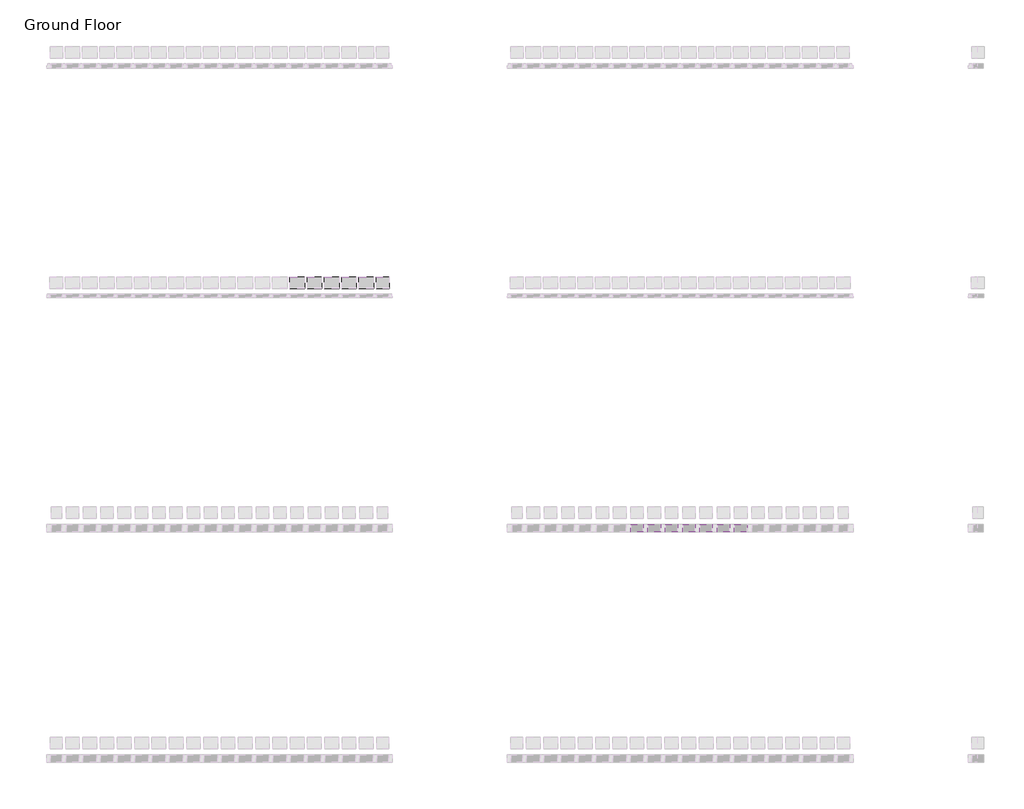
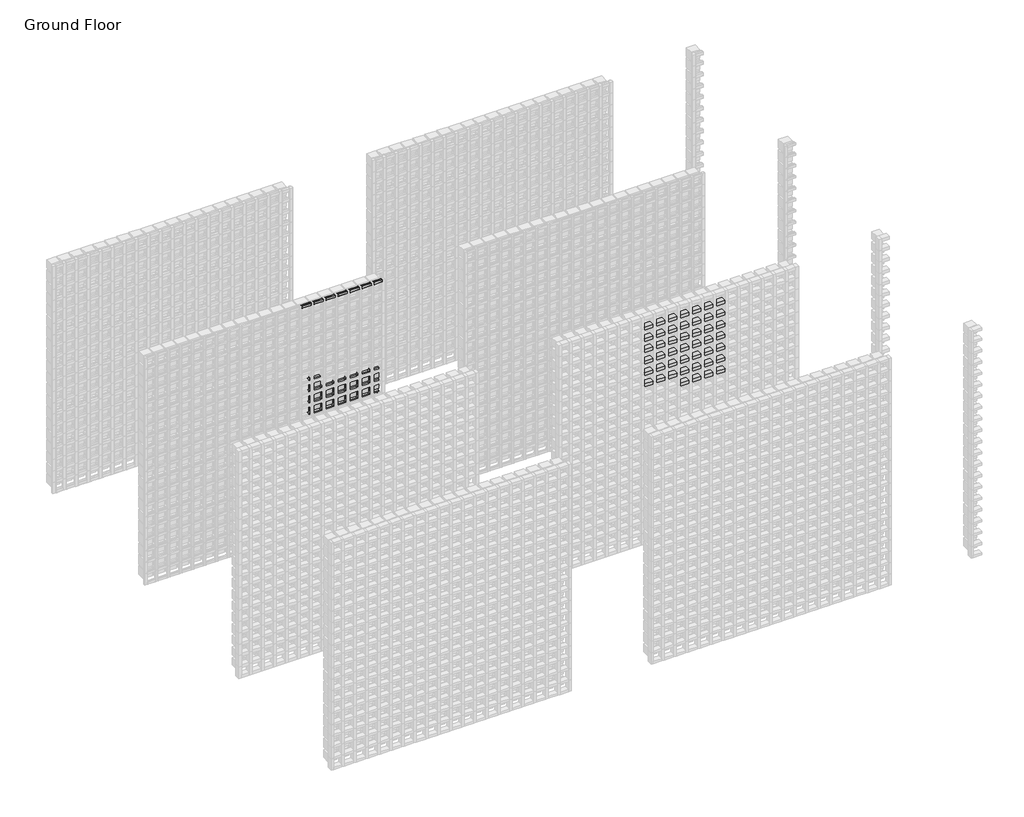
# One storey, part 132 of 350: 73 plates, 66 members.
"""IFC4 building model written with IfcOpenShell, lengths in millimetres."""

from ifc_helpers import new_model, si_unit, origin, place, context, project, spatial, transform, mapped, element, save
from components import rectangular_mullion_97e353d0, rectangular_mullion_f1976eb1, rectangular_mullion_66d447bf, rectangular_mullion_02594090, rectangular_mullion_7f8dba3f, rectangular_mullion_790ae51e, rectangular_mullion_a370a012, empty_system_panel_empty_5a3607ba, empty_system_panel_empty_babc703c, empty_system_panel_empty_56815599, empty_system_panel_empty_50ac6329

model = new_model("IFC4")

# Units and contexts
model_context = context("Model", 3, world=origin())
ifc_project = project(units=[si_unit("LENGTHUNIT", "METRE", prefix="MILLI")], contexts=[model_context])

# Site, building, storey
site = spatial("IfcSite", under=ifc_project)
building = spatial("IfcBuilding", under=site)
storey = spatial("IfcBuildingStorey", under=building, Name="Ground Floor", Elevation=0.0)

# Members
placement = place(None, origin())
rectangular_mullion_shape = rectangular_mullion_97e353d0(model_context)
element("IfcMember", 1, ObjectType="Rectangular Mullion : Batten_Timber_Modinex_Austratus_Grid_Fascia_40x65_Hemlock", at=placement, inside=storey, context=model_context, shape_type="MappedRepresentation", body=[
    mapped(rectangular_mullion_shape, transform((11546.4361642, 40968.2978302, 1950.0), x_axis=(0.0, 0.0, 1.0), y_axis=(0.0, -1.0, 0.0), z_axis=(1.0, 0.0, 0.0))),
])
element("IfcMember", 2, ObjectType="Rectangular Mullion : Batten_Timber_Modinex_Austratus_Grid_Fascia_40x65_Hemlock", at=placement, inside=storey, context=model_context, shape_type="MappedRepresentation", body=[
    mapped(rectangular_mullion_shape, transform((11696.4361642, 40968.2978302, 1950.0), x_axis=(0.0, 0.0, 1.0), y_axis=(0.0, -1.0, 0.0), z_axis=(1.0, 0.0, 0.0))),
])
element("IfcMember", 3, ObjectType="Rectangular Mullion : Batten_Timber_Modinex_Austratus_Grid_Fascia_40x65_Hemlock", at=placement, inside=storey, context=model_context, shape_type="MappedRepresentation", body=[
    mapped(rectangular_mullion_shape, transform((11846.4361642, 40968.2978302, 1950.0), x_axis=(0.0, 0.0, 1.0), y_axis=(0.0, -1.0, 0.0), z_axis=(1.0, 0.0, 0.0))),
])
element("IfcMember", 4, ObjectType="Rectangular Mullion : Batten_Timber_Modinex_Austratus_Grid_Fascia_40x65_Hemlock", at=placement, inside=storey, context=model_context, shape_type="MappedRepresentation", body=[
    mapped(rectangular_mullion_shape, transform((11996.4361642, 40968.2978302, 1950.0), x_axis=(0.0, 0.0, 1.0), y_axis=(0.0, -1.0, 0.0), z_axis=(1.0, 0.0, 0.0))),
])
element("IfcMember", 5, ObjectType="Rectangular Mullion : Batten_Timber_Modinex_Austratus_Grid_Fascia_40x65_Hemlock", at=placement, inside=storey, context=model_context, shape_type="MappedRepresentation", body=[
    mapped(rectangular_mullion_shape, transform((11096.4361642, 40968.2978302, 2100.0), x_axis=(0.0, 0.0, 1.0), y_axis=(0.0, -1.0, 0.0), z_axis=(1.0, 0.0, 0.0))),
])
element("IfcMember", 6, ObjectType="Rectangular Mullion : Batten_Timber_Modinex_Austratus_Grid_Fascia_40x65_Hemlock", at=placement, inside=storey, context=model_context, shape_type="MappedRepresentation", body=[
    mapped(rectangular_mullion_shape, transform((11246.4361642, 40968.2978302, 2100.0), x_axis=(0.0, 0.0, 1.0), y_axis=(0.0, -1.0, 0.0), z_axis=(1.0, 0.0, 0.0))),
])
element("IfcMember", 7, ObjectType="Rectangular Mullion : Batten_Timber_Modinex_Austratus_Grid_Fascia_40x65_Hemlock", at=placement, inside=storey, context=model_context, shape_type="MappedRepresentation", body=[
    mapped(rectangular_mullion_shape, transform((11396.4361642, 40968.2978302, 2100.0), x_axis=(0.0, 0.0, 1.0), y_axis=(0.0, -1.0, 0.0), z_axis=(1.0, 0.0, 0.0))),
])
element("IfcMember", 8, ObjectType="Rectangular Mullion : Batten_Timber_Modinex_Austratus_Grid_Fascia_40x65_Hemlock", at=placement, inside=storey, context=model_context, shape_type="MappedRepresentation", body=[
    mapped(rectangular_mullion_shape, transform((11546.4361642, 40968.2978302, 2100.0), x_axis=(0.0, 0.0, 1.0), y_axis=(0.0, -1.0, 0.0), z_axis=(1.0, 0.0, 0.0))),
])
element("IfcMember", 9, ObjectType="Rectangular Mullion : Batten_Timber_Modinex_Austratus_Grid_Fascia_40x65_Hemlock", at=placement, inside=storey, context=model_context, shape_type="MappedRepresentation", body=[
    mapped(rectangular_mullion_shape, transform((11696.4361642, 40968.2978302, 2100.0), x_axis=(0.0, 0.0, 1.0), y_axis=(0.0, -1.0, 0.0), z_axis=(1.0, 0.0, 0.0))),
])
element("IfcMember", 10, ObjectType="Rectangular Mullion : Batten_Timber_Modinex_Austratus_Grid_Fascia_40x65_Hemlock", at=placement, inside=storey, context=model_context, shape_type="MappedRepresentation", body=[
    mapped(rectangular_mullion_shape, transform((11846.4361642, 40968.2978302, 2100.0), x_axis=(0.0, 0.0, 1.0), y_axis=(0.0, -1.0, 0.0), z_axis=(1.0, 0.0, 0.0))),
])
element("IfcMember", 11, ObjectType="Rectangular Mullion : Batten_Timber_Modinex_Austratus_Grid_Fascia_40x65_Hemlock", at=placement, inside=storey, context=model_context, shape_type="MappedRepresentation", body=[
    mapped(rectangular_mullion_shape, transform((11996.4361642, 40968.2978302, 2100.0), x_axis=(0.0, 0.0, 1.0), y_axis=(0.0, -1.0, 0.0), z_axis=(1.0, 0.0, 0.0))),
])
element("IfcMember", 12, ObjectType="Rectangular Mullion : Batten_Timber_Modinex_Austratus_Grid_Fascia_40x65_Hemlock", at=placement, inside=storey, context=model_context, shape_type="MappedRepresentation", body=[
    mapped(rectangular_mullion_shape, transform((11096.4361642, 40968.2978302, 2250.0), x_axis=(0.0, 0.0, 1.0), y_axis=(0.0, -1.0, 0.0), z_axis=(1.0, 0.0, 0.0))),
])
element("IfcMember", 13, ObjectType="Rectangular Mullion : Batten_Timber_Modinex_Austratus_Grid_Fascia_40x65_Hemlock", at=placement, inside=storey, context=model_context, shape_type="MappedRepresentation", body=[
    mapped(rectangular_mullion_shape, transform((11246.4361642, 40968.2978302, 2250.0), x_axis=(0.0, 0.0, 1.0), y_axis=(0.0, -1.0, 0.0), z_axis=(1.0, 0.0, 0.0))),
])
element("IfcMember", 14, ObjectType="Rectangular Mullion : Batten_Timber_Modinex_Austratus_Grid_Fascia_40x65_Hemlock", at=placement, inside=storey, context=model_context, shape_type="MappedRepresentation", body=[
    mapped(rectangular_mullion_shape, transform((11396.4361642, 40968.2978302, 2250.0), x_axis=(0.0, 0.0, 1.0), y_axis=(0.0, -1.0, 0.0), z_axis=(1.0, 0.0, 0.0))),
])
element("IfcMember", 15, ObjectType="Rectangular Mullion : Batten_Timber_Modinex_Austratus_Grid_Fascia_40x65_Hemlock", at=placement, inside=storey, context=model_context, shape_type="MappedRepresentation", body=[
    mapped(rectangular_mullion_shape, transform((11546.4361642, 40968.2978302, 2250.0), x_axis=(0.0, 0.0, 1.0), y_axis=(0.0, -1.0, 0.0), z_axis=(1.0, 0.0, 0.0))),
])
element("IfcMember", 16, ObjectType="Rectangular Mullion : Batten_Timber_Modinex_Austratus_Grid_Fascia_40x65_Hemlock", at=placement, inside=storey, context=model_context, shape_type="MappedRepresentation", body=[
    mapped(rectangular_mullion_shape, transform((11696.4361642, 40968.2978302, 2250.0), x_axis=(0.0, 0.0, 1.0), y_axis=(0.0, -1.0, 0.0), z_axis=(1.0, 0.0, 0.0))),
])
element("IfcMember", 17, ObjectType="Rectangular Mullion : Batten_Timber_Modinex_Austratus_Grid_Fascia_40x65_Hemlock", at=placement, inside=storey, context=model_context, shape_type="MappedRepresentation", body=[
    mapped(rectangular_mullion_shape, transform((11846.4361642, 40968.2978302, 2250.0), x_axis=(0.0, 0.0, 1.0), y_axis=(0.0, -1.0, 0.0), z_axis=(1.0, 0.0, 0.0))),
])
element("IfcMember", 18, ObjectType="Rectangular Mullion : Batten_Timber_Modinex_Austratus_Grid_Fascia_40x65_Hemlock", at=placement, inside=storey, context=model_context, shape_type="MappedRepresentation", body=[
    mapped(rectangular_mullion_shape, transform((11996.4361642, 40968.2978302, 2250.0), x_axis=(0.0, 0.0, 1.0), y_axis=(0.0, -1.0, 0.0), z_axis=(1.0, 0.0, 0.0))),
])
element("IfcMember", 19, ObjectType="Rectangular Mullion : Batten_Timber_Modinex_Austratus_Grid_Fascia_40x65_Hemlock", at=placement, inside=storey, context=model_context, shape_type="MappedRepresentation", body=[
    mapped(rectangular_mullion_shape, transform((11096.4361642, 40968.2978302, 2400.0), x_axis=(0.0, 0.0, 1.0), y_axis=(0.0, -1.0, 0.0), z_axis=(1.0, 0.0, 0.0))),
])
element("IfcMember", 20, ObjectType="Rectangular Mullion : Batten_Timber_Modinex_Austratus_Grid_Fascia_40x65_Hemlock", at=placement, inside=storey, context=model_context, shape_type="MappedRepresentation", body=[
    mapped(rectangular_mullion_shape, transform((11246.4361642, 40968.2978302, 2400.0), x_axis=(0.0, 0.0, 1.0), y_axis=(0.0, -1.0, 0.0), z_axis=(1.0, 0.0, 0.0))),
])
element("IfcMember", 21, ObjectType="Rectangular Mullion : Batten_Timber_Modinex_Austratus_Grid_Fascia_40x65_Hemlock", at=placement, inside=storey, context=model_context, shape_type="MappedRepresentation", body=[
    mapped(rectangular_mullion_shape, transform((11396.4361642, 40968.2978302, 2400.0), x_axis=(0.0, 0.0, 1.0), y_axis=(0.0, -1.0, 0.0), z_axis=(1.0, 0.0, 0.0))),
])
element("IfcMember", 22, ObjectType="Rectangular Mullion : Batten_Timber_Modinex_Austratus_Grid_Fascia_40x65_Hemlock", at=placement, inside=storey, context=model_context, shape_type="MappedRepresentation", body=[
    mapped(rectangular_mullion_shape, transform((11546.4361642, 40968.2978302, 2400.0), x_axis=(0.0, 0.0, 1.0), y_axis=(0.0, -1.0, 0.0), z_axis=(1.0, 0.0, 0.0))),
])
element("IfcMember", 23, ObjectType="Rectangular Mullion : Batten_Timber_Modinex_Austratus_Grid_Fascia_40x65_Hemlock", at=placement, inside=storey, context=model_context, shape_type="MappedRepresentation", body=[
    mapped(rectangular_mullion_shape, transform((11696.4361642, 40968.2978302, 2400.0), x_axis=(0.0, 0.0, 1.0), y_axis=(0.0, -1.0, 0.0), z_axis=(1.0, 0.0, 0.0))),
])
element("IfcMember", 24, ObjectType="Rectangular Mullion : Batten_Timber_Modinex_Austratus_Grid_Fascia_40x65_Hemlock", at=placement, inside=storey, context=model_context, shape_type="MappedRepresentation", body=[
    mapped(rectangular_mullion_shape, transform((11846.4361642, 40968.2978302, 2400.0), x_axis=(0.0, 0.0, 1.0), y_axis=(0.0, -1.0, 0.0), z_axis=(1.0, 0.0, 0.0))),
])
element("IfcMember", 25, ObjectType="Rectangular Mullion : Batten_Timber_Modinex_Austratus_Grid_Fascia_40x65_Hemlock", at=placement, inside=storey, context=model_context, shape_type="MappedRepresentation", body=[
    mapped(rectangular_mullion_shape, transform((11996.4361642, 40968.2978302, 2400.0), x_axis=(0.0, 0.0, 1.0), y_axis=(0.0, -1.0, 0.0), z_axis=(1.0, 0.0, 0.0))),
])
element("IfcMember", 26, ObjectType="Rectangular Mullion : Batten_Timber_Modinex_Austratus_Grid_Fascia_40x65_Hemlock", at=placement, inside=storey, context=model_context, shape_type="MappedRepresentation", body=[
    mapped(rectangular_mullion_shape, transform((11096.4361642, 40968.2978302, 2550.0), x_axis=(0.0, 0.0, 1.0), y_axis=(0.0, -1.0, 0.0), z_axis=(1.0, 0.0, 0.0))),
])
element("IfcMember", 27, ObjectType="Rectangular Mullion : Batten_Timber_Modinex_Austratus_Grid_Fascia_40x65_Hemlock", at=placement, inside=storey, context=model_context, shape_type="MappedRepresentation", body=[
    mapped(rectangular_mullion_shape, transform((11246.4361642, 40968.2978302, 2550.0), x_axis=(0.0, 0.0, 1.0), y_axis=(0.0, -1.0, 0.0), z_axis=(1.0, 0.0, 0.0))),
])
element("IfcMember", 28, ObjectType="Rectangular Mullion : Batten_Timber_Modinex_Austratus_Grid_Fascia_40x65_Hemlock", at=placement, inside=storey, context=model_context, shape_type="MappedRepresentation", body=[
    mapped(rectangular_mullion_shape, transform((11396.4361642, 40968.2978302, 2550.0), x_axis=(0.0, 0.0, 1.0), y_axis=(0.0, -1.0, 0.0), z_axis=(1.0, 0.0, 0.0))),
])
element("IfcMember", 29, ObjectType="Rectangular Mullion : Batten_Timber_Modinex_Austratus_Grid_Fascia_40x65_Hemlock", at=placement, inside=storey, context=model_context, shape_type="MappedRepresentation", body=[
    mapped(rectangular_mullion_shape, transform((11546.4361642, 40968.2978302, 2550.0), x_axis=(0.0, 0.0, 1.0), y_axis=(0.0, -1.0, 0.0), z_axis=(1.0, 0.0, 0.0))),
])
element("IfcMember", 30, ObjectType="Rectangular Mullion : Batten_Timber_Modinex_Austratus_Grid_Fascia_40x65_Hemlock", at=placement, inside=storey, context=model_context, shape_type="MappedRepresentation", body=[
    mapped(rectangular_mullion_shape, transform((11696.4361642, 40968.2978302, 2550.0), x_axis=(0.0, 0.0, 1.0), y_axis=(0.0, -1.0, 0.0), z_axis=(1.0, 0.0, 0.0))),
])
element("IfcMember", 31, ObjectType="Rectangular Mullion : Batten_Timber_Modinex_Austratus_Grid_Fascia_40x65_Hemlock", at=placement, inside=storey, context=model_context, shape_type="MappedRepresentation", body=[
    mapped(rectangular_mullion_shape, transform((11846.4361642, 40968.2978302, 2550.0), x_axis=(0.0, 0.0, 1.0), y_axis=(0.0, -1.0, 0.0), z_axis=(1.0, 0.0, 0.0))),
])
element("IfcMember", 32, ObjectType="Rectangular Mullion : Batten_Timber_Modinex_Austratus_Grid_Fascia_40x65_Hemlock", at=placement, inside=storey, context=model_context, shape_type="MappedRepresentation", body=[
    mapped(rectangular_mullion_shape, transform((11996.4361642, 40968.2978302, 2550.0), x_axis=(0.0, 0.0, 1.0), y_axis=(0.0, -1.0, 0.0), z_axis=(1.0, 0.0, 0.0))),
])
element("IfcMember", 33, ObjectType="Rectangular Mullion : Batten_Timber_Modinex_Austratus_Grid_Fascia_40x65_Hemlock", at=placement, inside=storey, context=model_context, shape_type="MappedRepresentation", body=[
    mapped(rectangular_mullion_shape, transform((11096.4361642, 40968.2978302, 2700.0), x_axis=(0.0, 0.0, 1.0), y_axis=(0.0, -1.0, 0.0), z_axis=(1.0, 0.0, 0.0))),
])
element("IfcMember", 34, ObjectType="Rectangular Mullion : Batten_Timber_Modinex_Austratus_Grid_Fascia_40x65_Hemlock", at=placement, inside=storey, context=model_context, shape_type="MappedRepresentation", body=[
    mapped(rectangular_mullion_shape, transform((11246.4361642, 40968.2978302, 2700.0), x_axis=(0.0, 0.0, 1.0), y_axis=(0.0, -1.0, 0.0), z_axis=(1.0, 0.0, 0.0))),
])
element("IfcMember", 35, ObjectType="Rectangular Mullion : Batten_Timber_Modinex_Austratus_Grid_Fascia_40x65_Hemlock", at=placement, inside=storey, context=model_context, shape_type="MappedRepresentation", body=[
    mapped(rectangular_mullion_shape, transform((11396.4361642, 40968.2978302, 2700.0), x_axis=(0.0, 0.0, 1.0), y_axis=(0.0, -1.0, 0.0), z_axis=(1.0, 0.0, 0.0))),
])
element("IfcMember", 36, ObjectType="Rectangular Mullion : Batten_Timber_Modinex_Austratus_Grid_Fascia_40x65_Hemlock", at=placement, inside=storey, context=model_context, shape_type="MappedRepresentation", body=[
    mapped(rectangular_mullion_shape, transform((11546.4361642, 40968.2978302, 2700.0), x_axis=(0.0, 0.0, 1.0), y_axis=(0.0, -1.0, 0.0), z_axis=(1.0, 0.0, 0.0))),
])
element("IfcMember", 37, ObjectType="Rectangular Mullion : Batten_Timber_Modinex_Austratus_Grid_Fascia_40x65_Hemlock", at=placement, inside=storey, context=model_context, shape_type="MappedRepresentation", body=[
    mapped(rectangular_mullion_shape, transform((11696.4361642, 40968.2978302, 2700.0), x_axis=(0.0, 0.0, 1.0), y_axis=(0.0, -1.0, 0.0), z_axis=(1.0, 0.0, 0.0))),
])
element("IfcMember", 38, ObjectType="Rectangular Mullion : Batten_Timber_Modinex_Austratus_Grid_Fascia_40x65_Hemlock", at=placement, inside=storey, context=model_context, shape_type="MappedRepresentation", body=[
    mapped(rectangular_mullion_shape, transform((11846.4361642, 40968.2978302, 2700.0), x_axis=(0.0, 0.0, 1.0), y_axis=(0.0, -1.0, 0.0), z_axis=(1.0, 0.0, 0.0))),
])
element("IfcMember", 39, ObjectType="Rectangular Mullion : Batten_Timber_Modinex_Austratus_Grid_Fascia_40x65_Hemlock", at=placement, inside=storey, context=model_context, shape_type="MappedRepresentation", body=[
    mapped(rectangular_mullion_shape, transform((11996.4361642, 40968.2978302, 2700.0), x_axis=(0.0, 0.0, 1.0), y_axis=(0.0, -1.0, 0.0), z_axis=(1.0, 0.0, 0.0))),
])
element("IfcMember", 40, ObjectType="Rectangular Mullion : Batten_Timber_Modinex_Austratus_Grid_Fascia_40x65_Hemlock", at=placement, inside=storey, context=model_context, shape_type="MappedRepresentation", body=[
    mapped(rectangular_mullion_shape, transform((11096.4361642, 40968.2978302, 2850.0), x_axis=(0.0, 0.0, 1.0), y_axis=(0.0, -1.0, 0.0), z_axis=(1.0, 0.0, 0.0))),
])
element("IfcMember", 41, ObjectType="Rectangular Mullion : Batten_Timber_Modinex_Austratus_Grid_Fascia_40x65_Hemlock", at=placement, inside=storey, context=model_context, shape_type="MappedRepresentation", body=[
    mapped(rectangular_mullion_shape, transform((11246.4361642, 40968.2978302, 2850.0), x_axis=(0.0, 0.0, 1.0), y_axis=(0.0, -1.0, 0.0), z_axis=(1.0, 0.0, 0.0))),
])
element("IfcMember", 42, ObjectType="Rectangular Mullion : Batten_Timber_Modinex_Austratus_Grid_Fascia_40x65_Hemlock", at=placement, inside=storey, context=model_context, shape_type="MappedRepresentation", body=[
    mapped(rectangular_mullion_shape, transform((11396.4361642, 40968.2978302, 2850.0), x_axis=(0.0, 0.0, 1.0), y_axis=(0.0, -1.0, 0.0), z_axis=(1.0, 0.0, 0.0))),
])
element("IfcMember", 43, ObjectType="Rectangular Mullion : Batten_Timber_Modinex_Austratus_Grid_Fascia_40x65_Hemlock", at=placement, inside=storey, context=model_context, shape_type="MappedRepresentation", body=[
    mapped(rectangular_mullion_shape, transform((11546.4361642, 40968.2978302, 2850.0), x_axis=(0.0, 0.0, 1.0), y_axis=(0.0, -1.0, 0.0), z_axis=(1.0, 0.0, 0.0))),
])
element("IfcMember", 44, ObjectType="Rectangular Mullion : Batten_Timber_Modinex_Austratus_Grid_Fascia_40x65_Hemlock", at=placement, inside=storey, context=model_context, shape_type="MappedRepresentation", body=[
    mapped(rectangular_mullion_shape, transform((11696.4361642, 40968.2978302, 2850.0), x_axis=(0.0, 0.0, 1.0), y_axis=(0.0, -1.0, 0.0), z_axis=(1.0, 0.0, 0.0))),
])
element("IfcMember", 45, ObjectType="Rectangular Mullion : Batten_Timber_Modinex_Austratus_Grid_Fascia_40x65_Hemlock", at=placement, inside=storey, context=model_context, shape_type="MappedRepresentation", body=[
    mapped(rectangular_mullion_shape, transform((11846.4361642, 40968.2978302, 2850.0), x_axis=(0.0, 0.0, 1.0), y_axis=(0.0, -1.0, 0.0), z_axis=(1.0, 0.0, 0.0))),
])
element("IfcMember", 46, ObjectType="Rectangular Mullion : Batten_Timber_Modinex_Austratus_Grid_Fascia_40x65_Hemlock", at=placement, inside=storey, context=model_context, shape_type="MappedRepresentation", body=[
    mapped(rectangular_mullion_shape, transform((11996.4361642, 40968.2978302, 2850.0), x_axis=(0.0, 0.0, 1.0), y_axis=(0.0, -1.0, 0.0), z_axis=(1.0, 0.0, 0.0))),
])
rectangular_mullion_2_shape = rectangular_mullion_f1976eb1(model_context)
element("IfcMember", 47, ObjectType="Rectangular Mullion : Batten_Timber_Modinex_Austratus_Grid_Fin_30x30_Blackbutt", at=placement, inside=storey, context=model_context, shape_type="MappedRepresentation", body=[
    mapped(rectangular_mullion_2_shape, transform((8016.4361642, 42968.2978302, 0.0), x_axis=(1.0, 0.0, 0.0), y_axis=(0.0, -1.0, 0.0), z_axis=(0.0, 0.0, -1.0))),
])
element("IfcMember", 48, ObjectType="Rectangular Mullion : Batten_Timber_Modinex_Austratus_Grid_Fin_30x30_Blackbutt", at=placement, inside=storey, context=model_context, shape_type="MappedRepresentation", body=[
    mapped(rectangular_mullion_2_shape, transform((8166.4361642, 42968.2978302, 0.0), x_axis=(1.0, 0.0, 0.0), y_axis=(0.0, -1.0, 0.0), z_axis=(0.0, 0.0, -1.0))),
])
element("IfcMember", 49, ObjectType="Rectangular Mullion : Batten_Timber_Modinex_Austratus_Grid_Fin_30x30_Blackbutt", at=placement, inside=storey, context=model_context, shape_type="MappedRepresentation", body=[
    mapped(rectangular_mullion_2_shape, transform((8316.4361642, 42968.2978302, 0.0), x_axis=(1.0, 0.0, 0.0), y_axis=(0.0, -1.0, 0.0), z_axis=(0.0, 0.0, -1.0))),
])
element("IfcMember", 50, ObjectType="Rectangular Mullion : Batten_Timber_Modinex_Austratus_Grid_Fin_30x30_Blackbutt", at=placement, inside=storey, context=model_context, shape_type="MappedRepresentation", body=[
    mapped(rectangular_mullion_2_shape, transform((8466.4361642, 42968.2978302, 0.0), x_axis=(1.0, 0.0, 0.0), y_axis=(0.0, -1.0, 0.0), z_axis=(0.0, 0.0, -1.0))),
])
element("IfcMember", 51, ObjectType="Rectangular Mullion : Batten_Timber_Modinex_Austratus_Grid_Fin_30x30_Blackbutt", at=placement, inside=storey, context=model_context, shape_type="MappedRepresentation", body=[
    mapped(rectangular_mullion_2_shape, transform((8616.4361642, 42968.2978302, 0.0), x_axis=(1.0, 0.0, 0.0), y_axis=(0.0, -1.0, 0.0), z_axis=(0.0, 0.0, -1.0))),
])
element("IfcMember", 52, ObjectType="Rectangular Mullion : Batten_Timber_Modinex_Austratus_Grid_Fin_30x30_Blackbutt", at=placement, inside=storey, context=model_context, shape_type="MappedRepresentation", body=[
    mapped(rectangular_mullion_2_shape, transform((8766.4361642, 42968.2978302, 0.0), x_axis=(1.0, 0.0, 0.0), y_axis=(0.0, -1.0, 0.0), z_axis=(0.0, 0.0, -1.0))),
])
rectangular_mullion_3_shape = rectangular_mullion_66d447bf(model_context)
element("IfcMember", 53, ObjectType="Rectangular Mullion : Batten_Timber_Modinex_Austratus_Grid_Fin_30x30_Blackbutt", at=placement, inside=storey, context=model_context, shape_type="MappedRepresentation", body=[
    mapped(rectangular_mullion_3_shape, transform((8886.4361639, 42968.2978302, 3000.0), x_axis=(0.0, 0.0, 1.0), y_axis=(0.0, -1.0, 0.0), z_axis=(1.0, 0.0, 0.0))),
])
rectangular_mullion_4_shape = rectangular_mullion_02594090(model_context)
element("IfcMember", 54, ObjectType="Rectangular Mullion : Batten_Timber_Modinex_Austratus_Grid_Fin_30x30_Blackbutt", at=placement, inside=storey, context=model_context, shape_type="MappedRepresentation", body=[
    mapped(rectangular_mullion_4_shape, transform((8001.4361642, 42968.2978302, 3000.0), x_axis=(0.0, 0.0, 1.0), y_axis=(0.0, -1.0, 0.0), z_axis=(1.0, 0.0, 0.0))),
])
element("IfcMember", 55, ObjectType="Rectangular Mullion : Batten_Timber_Modinex_Austratus_Grid_Fin_30x30_Blackbutt", at=placement, inside=storey, context=model_context, shape_type="MappedRepresentation", body=[
    mapped(rectangular_mullion_4_shape, transform((8151.4361642, 42968.2978302, 3000.0), x_axis=(0.0, 0.0, 1.0), y_axis=(0.0, -1.0, 0.0), z_axis=(1.0, 0.0, 0.0))),
])
element("IfcMember", 56, ObjectType="Rectangular Mullion : Batten_Timber_Modinex_Austratus_Grid_Fin_30x30_Blackbutt", at=placement, inside=storey, context=model_context, shape_type="MappedRepresentation", body=[
    mapped(rectangular_mullion_4_shape, transform((8301.4361642, 42968.2978302, 3000.0), x_axis=(0.0, 0.0, 1.0), y_axis=(0.0, -1.0, 0.0), z_axis=(1.0, 0.0, 0.0))),
])
element("IfcMember", 57, ObjectType="Rectangular Mullion : Batten_Timber_Modinex_Austratus_Grid_Fin_30x30_Blackbutt", at=placement, inside=storey, context=model_context, shape_type="MappedRepresentation", body=[
    mapped(rectangular_mullion_4_shape, transform((8451.4361642, 42968.2978302, 3000.0), x_axis=(0.0, 0.0, 1.0), y_axis=(0.0, -1.0, 0.0), z_axis=(1.0, 0.0, 0.0))),
])
element("IfcMember", 58, ObjectType="Rectangular Mullion : Batten_Timber_Modinex_Austratus_Grid_Fin_30x30_Blackbutt", at=placement, inside=storey, context=model_context, shape_type="MappedRepresentation", body=[
    mapped(rectangular_mullion_4_shape, transform((8601.4361642, 42968.2978302, 3000.0), x_axis=(0.0, 0.0, 1.0), y_axis=(0.0, -1.0, 0.0), z_axis=(1.0, 0.0, 0.0))),
])
element("IfcMember", 59, ObjectType="Rectangular Mullion : Batten_Timber_Modinex_Austratus_Grid_Fin_30x30_Blackbutt", at=placement, inside=storey, context=model_context, shape_type="MappedRepresentation", body=[
    mapped(rectangular_mullion_4_shape, transform((8751.4361642, 42968.2978302, 3000.0), x_axis=(0.0, 0.0, 1.0), y_axis=(0.0, -1.0, 0.0), z_axis=(1.0, 0.0, 0.0))),
])
rectangular_mullion_5_shape = rectangular_mullion_7f8dba3f(model_context)
element("IfcMember", 60, ObjectType="Rectangular Mullion : Batten_Timber_Modinex_Austratus_Grid_Fin_30x30_Blackbutt", at=placement, inside=storey, context=model_context, shape_type="MappedRepresentation", body=[
    mapped(rectangular_mullion_5_shape, transform((8781.4361642, 42968.2978302, 0.0), x_axis=(0.0, 0.0, -1.0), y_axis=(0.0, -1.0, 0.0), z_axis=(-1.0, 0.0, 0.0))),
])
rectangular_mullion_6_shape = rectangular_mullion_790ae51e(model_context)
element("IfcMember", 61, ObjectType="Rectangular Mullion : Batten_Timber_Modinex_Austratus_Grid_Fin_30x30_Blackbutt", at=placement, inside=storey, context=model_context, shape_type="MappedRepresentation", body=[
    mapped(rectangular_mullion_6_shape, transform((8031.4361642, 42968.2978302, 0.0), x_axis=(0.0, 0.0, -1.0), y_axis=(0.0, -1.0, 0.0), z_axis=(-1.0, 0.0, 0.0))),
])
element("IfcMember", 62, ObjectType="Rectangular Mullion : Batten_Timber_Modinex_Austratus_Grid_Fin_30x30_Blackbutt", at=placement, inside=storey, context=model_context, shape_type="MappedRepresentation", body=[
    mapped(rectangular_mullion_6_shape, transform((8181.4361642, 42968.2978302, 0.0), x_axis=(0.0, 0.0, -1.0), y_axis=(0.0, -1.0, 0.0), z_axis=(-1.0, 0.0, 0.0))),
])
element("IfcMember", 63, ObjectType="Rectangular Mullion : Batten_Timber_Modinex_Austratus_Grid_Fin_30x30_Blackbutt", at=placement, inside=storey, context=model_context, shape_type="MappedRepresentation", body=[
    mapped(rectangular_mullion_6_shape, transform((8331.4361642, 42968.2978302, 0.0), x_axis=(0.0, 0.0, -1.0), y_axis=(0.0, -1.0, 0.0), z_axis=(-1.0, 0.0, 0.0))),
])
element("IfcMember", 64, ObjectType="Rectangular Mullion : Batten_Timber_Modinex_Austratus_Grid_Fin_30x30_Blackbutt", at=placement, inside=storey, context=model_context, shape_type="MappedRepresentation", body=[
    mapped(rectangular_mullion_6_shape, transform((8481.4361642, 42968.2978302, 0.0), x_axis=(0.0, 0.0, -1.0), y_axis=(0.0, -1.0, 0.0), z_axis=(-1.0, 0.0, 0.0))),
])
element("IfcMember", 65, ObjectType="Rectangular Mullion : Batten_Timber_Modinex_Austratus_Grid_Fin_30x30_Blackbutt", at=placement, inside=storey, context=model_context, shape_type="MappedRepresentation", body=[
    mapped(rectangular_mullion_6_shape, transform((8631.4361642, 42968.2978302, 0.0), x_axis=(0.0, 0.0, -1.0), y_axis=(0.0, -1.0, 0.0), z_axis=(-1.0, 0.0, 0.0))),
])
rectangular_mullion_7_shape = rectangular_mullion_a370a012(model_context)
element("IfcMember", 66, ObjectType="Rectangular Mullion : Batten_Timber_Modinex_Austratus_Grid_Fin_30x30_Blackbutt", at=placement, inside=storey, context=model_context, shape_type="MappedRepresentation", body=[
    mapped(rectangular_mullion_7_shape, transform((8916.4361639, 42968.2978302, 0.0), x_axis=(1.0, 0.0, 0.0), y_axis=(0.0, -1.0, 0.0), z_axis=(0.0, 0.0, -1.0))),
])

# Plates
empty_system_panel_empty_shape = empty_system_panel_empty_5a3607ba(model_context)
element("IfcPlate", 67, ObjectType="Empty System Panel : Empty", at=placement, inside=storey, context=model_context, shape_type="MappedRepresentation", body=[
    mapped(empty_system_panel_empty_shape, transform((8091.4361642, 42968.2978302, 160.812195), x_axis=(1.0, 0.0, 0.0), y_axis=(0.0, 1.0, 0.0), z_axis=(0.0, 0.0, 1.0))),
])
element("IfcPlate", 68, ObjectType="Empty System Panel : Empty", at=placement, inside=storey, context=model_context, shape_type="MappedRepresentation", body=[
    mapped(empty_system_panel_empty_shape, transform((8241.4361642, 42968.2978302, 160.812195), x_axis=(1.0, 0.0, 0.0), y_axis=(0.0, 1.0, 0.0), z_axis=(0.0, 0.0, 1.0))),
])
element("IfcPlate", 69, ObjectType="Empty System Panel : Empty", at=placement, inside=storey, context=model_context, shape_type="MappedRepresentation", body=[
    mapped(empty_system_panel_empty_shape, transform((8391.4361642, 42968.2978302, 160.812195), x_axis=(1.0, 0.0, 0.0), y_axis=(0.0, 1.0, 0.0), z_axis=(0.0, 0.0, 1.0))),
])
element("IfcPlate", 70, ObjectType="Empty System Panel : Empty", at=placement, inside=storey, context=model_context, shape_type="MappedRepresentation", body=[
    mapped(empty_system_panel_empty_shape, transform((8541.4361642, 42968.2978302, 160.812195), x_axis=(1.0, 0.0, 0.0), y_axis=(0.0, 1.0, 0.0), z_axis=(0.0, 0.0, 1.0))),
])
element("IfcPlate", 71, ObjectType="Empty System Panel : Empty", at=placement, inside=storey, context=model_context, shape_type="MappedRepresentation", body=[
    mapped(empty_system_panel_empty_shape, transform((8691.4361642, 42968.2978302, 160.812195), x_axis=(1.0, 0.0, 0.0), y_axis=(0.0, 1.0, 0.0), z_axis=(0.0, 0.0, 1.0))),
])
element("IfcPlate", 72, ObjectType="Empty System Panel : Empty", at=placement, inside=storey, context=model_context, shape_type="MappedRepresentation", body=[
    mapped(empty_system_panel_empty_shape, transform((8091.4361642, 42968.2978302, 310.812195), x_axis=(1.0, 0.0, 0.0), y_axis=(0.0, 1.0, 0.0), z_axis=(0.0, 0.0, 1.0))),
])
element("IfcPlate", 73, ObjectType="Empty System Panel : Empty", at=placement, inside=storey, context=model_context, shape_type="MappedRepresentation", body=[
    mapped(empty_system_panel_empty_shape, transform((8241.4361642, 42968.2978302, 310.812195), x_axis=(1.0, 0.0, 0.0), y_axis=(0.0, 1.0, 0.0), z_axis=(0.0, 0.0, 1.0))),
])
element("IfcPlate", 74, ObjectType="Empty System Panel : Empty", at=placement, inside=storey, context=model_context, shape_type="MappedRepresentation", body=[
    mapped(empty_system_panel_empty_shape, transform((8391.4361642, 42968.2978302, 310.812195), x_axis=(1.0, 0.0, 0.0), y_axis=(0.0, 1.0, 0.0), z_axis=(0.0, 0.0, 1.0))),
])
element("IfcPlate", 75, ObjectType="Empty System Panel : Empty", at=placement, inside=storey, context=model_context, shape_type="MappedRepresentation", body=[
    mapped(empty_system_panel_empty_shape, transform((8541.4361642, 42968.2978302, 310.812195), x_axis=(1.0, 0.0, 0.0), y_axis=(0.0, 1.0, 0.0), z_axis=(0.0, 0.0, 1.0))),
])
element("IfcPlate", 76, ObjectType="Empty System Panel : Empty", at=placement, inside=storey, context=model_context, shape_type="MappedRepresentation", body=[
    mapped(empty_system_panel_empty_shape, transform((8691.4361642, 42968.2978302, 310.812195), x_axis=(1.0, 0.0, 0.0), y_axis=(0.0, 1.0, 0.0), z_axis=(0.0, 0.0, 1.0))),
])
element("IfcPlate", 77, ObjectType="Empty System Panel : Empty", at=placement, inside=storey, context=model_context, shape_type="MappedRepresentation", body=[
    mapped(empty_system_panel_empty_shape, transform((8091.4361642, 42968.2978302, 460.812195), x_axis=(1.0, 0.0, 0.0), y_axis=(0.0, 1.0, 0.0), z_axis=(0.0, 0.0, 1.0))),
])
element("IfcPlate", 78, ObjectType="Empty System Panel : Empty", at=placement, inside=storey, context=model_context, shape_type="MappedRepresentation", body=[
    mapped(empty_system_panel_empty_shape, transform((8241.4361642, 42968.2978302, 460.812195), x_axis=(1.0, 0.0, 0.0), y_axis=(0.0, 1.0, 0.0), z_axis=(0.0, 0.0, 1.0))),
])
element("IfcPlate", 79, ObjectType="Empty System Panel : Empty", at=placement, inside=storey, context=model_context, shape_type="MappedRepresentation", body=[
    mapped(empty_system_panel_empty_shape, transform((8391.4361642, 42968.2978302, 460.812195), x_axis=(1.0, 0.0, 0.0), y_axis=(0.0, 1.0, 0.0), z_axis=(0.0, 0.0, 1.0))),
])
element("IfcPlate", 80, ObjectType="Empty System Panel : Empty", at=placement, inside=storey, context=model_context, shape_type="MappedRepresentation", body=[
    mapped(empty_system_panel_empty_shape, transform((8541.4361642, 42968.2978302, 460.812195), x_axis=(1.0, 0.0, 0.0), y_axis=(0.0, 1.0, 0.0), z_axis=(0.0, 0.0, 1.0))),
])
element("IfcPlate", 81, ObjectType="Empty System Panel : Empty", at=placement, inside=storey, context=model_context, shape_type="MappedRepresentation", body=[
    mapped(empty_system_panel_empty_shape, transform((8691.4361642, 42968.2978302, 460.812195), x_axis=(1.0, 0.0, 0.0), y_axis=(0.0, 1.0, 0.0), z_axis=(0.0, 0.0, 1.0))),
])
element("IfcPlate", 82, ObjectType="Empty System Panel : Empty", at=placement, inside=storey, context=model_context, shape_type="MappedRepresentation", body=[
    mapped(empty_system_panel_empty_shape, transform((8091.4361642, 42968.2978302, 610.812195), x_axis=(1.0, 0.0, 0.0), y_axis=(0.0, 1.0, 0.0), z_axis=(0.0, 0.0, 1.0))),
])
element("IfcPlate", 83, ObjectType="Empty System Panel : Empty", at=placement, inside=storey, context=model_context, shape_type="MappedRepresentation", body=[
    mapped(empty_system_panel_empty_shape, transform((8241.4361642, 42968.2978302, 610.812195), x_axis=(1.0, 0.0, 0.0), y_axis=(0.0, 1.0, 0.0), z_axis=(0.0, 0.0, 1.0))),
])
element("IfcPlate", 84, ObjectType="Empty System Panel : Empty", at=placement, inside=storey, context=model_context, shape_type="MappedRepresentation", body=[
    mapped(empty_system_panel_empty_shape, transform((8391.4361642, 42968.2978302, 610.812195), x_axis=(1.0, 0.0, 0.0), y_axis=(0.0, 1.0, 0.0), z_axis=(0.0, 0.0, 1.0))),
])
element("IfcPlate", 85, ObjectType="Empty System Panel : Empty", at=placement, inside=storey, context=model_context, shape_type="MappedRepresentation", body=[
    mapped(empty_system_panel_empty_shape, transform((8541.4361642, 42968.2978302, 610.812195), x_axis=(1.0, 0.0, 0.0), y_axis=(0.0, 1.0, 0.0), z_axis=(0.0, 0.0, 1.0))),
])
element("IfcPlate", 86, ObjectType="Empty System Panel : Empty", at=placement, inside=storey, context=model_context, shape_type="MappedRepresentation", body=[
    mapped(empty_system_panel_empty_shape, transform((8691.4361642, 42968.2978302, 610.812195), x_axis=(1.0, 0.0, 0.0), y_axis=(0.0, 1.0, 0.0), z_axis=(0.0, 0.0, 1.0))),
])
element("IfcPlate", 87, ObjectType="Empty System Panel : Empty", at=placement, inside=storey, context=model_context, shape_type="MappedRepresentation", body=[
    mapped(empty_system_panel_empty_shape, transform((8091.4361642, 42968.2978302, 760.812195), x_axis=(1.0, 0.0, 0.0), y_axis=(0.0, 1.0, 0.0), z_axis=(0.0, 0.0, 1.0))),
])
element("IfcPlate", 88, ObjectType="Empty System Panel : Empty", at=placement, inside=storey, context=model_context, shape_type="MappedRepresentation", body=[
    mapped(empty_system_panel_empty_shape, transform((8241.4361642, 42968.2978302, 760.812195), x_axis=(1.0, 0.0, 0.0), y_axis=(0.0, 1.0, 0.0), z_axis=(0.0, 0.0, 1.0))),
])
element("IfcPlate", 89, ObjectType="Empty System Panel : Empty", at=placement, inside=storey, context=model_context, shape_type="MappedRepresentation", body=[
    mapped(empty_system_panel_empty_shape, transform((8391.4361642, 42968.2978302, 760.812195), x_axis=(1.0, 0.0, 0.0), y_axis=(0.0, 1.0, 0.0), z_axis=(0.0, 0.0, 1.0))),
])
element("IfcPlate", 90, ObjectType="Empty System Panel : Empty", at=placement, inside=storey, context=model_context, shape_type="MappedRepresentation", body=[
    mapped(empty_system_panel_empty_shape, transform((8541.4361642, 42968.2978302, 760.812195), x_axis=(1.0, 0.0, 0.0), y_axis=(0.0, 1.0, 0.0), z_axis=(0.0, 0.0, 1.0))),
])
element("IfcPlate", 91, ObjectType="Empty System Panel : Empty", at=placement, inside=storey, context=model_context, shape_type="MappedRepresentation", body=[
    mapped(empty_system_panel_empty_shape, transform((8691.4361642, 42968.2978302, 760.812195), x_axis=(1.0, 0.0, 0.0), y_axis=(0.0, 1.0, 0.0), z_axis=(0.0, 0.0, 1.0))),
])
element("IfcPlate", 92, ObjectType="Empty System Panel : Empty", at=placement, inside=storey, context=model_context, shape_type="MappedRepresentation", body=[
    mapped(empty_system_panel_empty_shape, transform((8091.4361642, 42968.2978302, 910.812195), x_axis=(1.0, 0.0, 0.0), y_axis=(0.0, 1.0, 0.0), z_axis=(0.0, 0.0, 1.0))),
])
element("IfcPlate", 93, ObjectType="Empty System Panel : Empty", at=placement, inside=storey, context=model_context, shape_type="MappedRepresentation", body=[
    mapped(empty_system_panel_empty_shape, transform((8241.4361642, 42968.2978302, 910.812195), x_axis=(1.0, 0.0, 0.0), y_axis=(0.0, 1.0, 0.0), z_axis=(0.0, 0.0, 1.0))),
])
element("IfcPlate", 94, ObjectType="Empty System Panel : Empty", at=placement, inside=storey, context=model_context, shape_type="MappedRepresentation", body=[
    mapped(empty_system_panel_empty_shape, transform((8391.4361642, 42968.2978302, 910.812195), x_axis=(1.0, 0.0, 0.0), y_axis=(0.0, 1.0, 0.0), z_axis=(0.0, 0.0, 1.0))),
])
element("IfcPlate", 95, ObjectType="Empty System Panel : Empty", at=placement, inside=storey, context=model_context, shape_type="MappedRepresentation", body=[
    mapped(empty_system_panel_empty_shape, transform((8541.4361642, 42968.2978302, 910.812195), x_axis=(1.0, 0.0, 0.0), y_axis=(0.0, 1.0, 0.0), z_axis=(0.0, 0.0, 1.0))),
])
element("IfcPlate", 96, ObjectType="Empty System Panel : Empty", at=placement, inside=storey, context=model_context, shape_type="MappedRepresentation", body=[
    mapped(empty_system_panel_empty_shape, transform((8691.4361642, 42968.2978302, 910.812195), x_axis=(1.0, 0.0, 0.0), y_axis=(0.0, 1.0, 0.0), z_axis=(0.0, 0.0, 1.0))),
])
element("IfcPlate", 97, ObjectType="Empty System Panel : Empty", at=placement, inside=storey, context=model_context, shape_type="MappedRepresentation", body=[
    mapped(empty_system_panel_empty_shape, transform((8091.4361642, 42968.2978302, 1060.812195), x_axis=(1.0, 0.0, 0.0), y_axis=(0.0, 1.0, 0.0), z_axis=(0.0, 0.0, 1.0))),
])
element("IfcPlate", 98, ObjectType="Empty System Panel : Empty", at=placement, inside=storey, context=model_context, shape_type="MappedRepresentation", body=[
    mapped(empty_system_panel_empty_shape, transform((8241.4361642, 42968.2978302, 1060.812195), x_axis=(1.0, 0.0, 0.0), y_axis=(0.0, 1.0, 0.0), z_axis=(0.0, 0.0, 1.0))),
])
element("IfcPlate", 99, ObjectType="Empty System Panel : Empty", at=placement, inside=storey, context=model_context, shape_type="MappedRepresentation", body=[
    mapped(empty_system_panel_empty_shape, transform((8391.4361642, 42968.2978302, 1060.812195), x_axis=(1.0, 0.0, 0.0), y_axis=(0.0, 1.0, 0.0), z_axis=(0.0, 0.0, 1.0))),
])
element("IfcPlate", 100, ObjectType="Empty System Panel : Empty", at=placement, inside=storey, context=model_context, shape_type="MappedRepresentation", body=[
    mapped(empty_system_panel_empty_shape, transform((8541.4361642, 42968.2978302, 1060.812195), x_axis=(1.0, 0.0, 0.0), y_axis=(0.0, 1.0, 0.0), z_axis=(0.0, 0.0, 1.0))),
])
element("IfcPlate", 101, ObjectType="Empty System Panel : Empty", at=placement, inside=storey, context=model_context, shape_type="MappedRepresentation", body=[
    mapped(empty_system_panel_empty_shape, transform((8691.4361642, 42968.2978302, 1060.812195), x_axis=(1.0, 0.0, 0.0), y_axis=(0.0, 1.0, 0.0), z_axis=(0.0, 0.0, 1.0))),
])
element("IfcPlate", 102, ObjectType="Empty System Panel : Empty", at=placement, inside=storey, context=model_context, shape_type="MappedRepresentation", body=[
    mapped(empty_system_panel_empty_shape, transform((8091.4361642, 42968.2978302, 1210.812195), x_axis=(1.0, 0.0, 0.0), y_axis=(0.0, 1.0, 0.0), z_axis=(0.0, 0.0, 1.0))),
])
element("IfcPlate", 103, ObjectType="Empty System Panel : Empty", at=placement, inside=storey, context=model_context, shape_type="MappedRepresentation", body=[
    mapped(empty_system_panel_empty_shape, transform((8241.4361642, 42968.2978302, 1210.812195), x_axis=(1.0, 0.0, 0.0), y_axis=(0.0, 1.0, 0.0), z_axis=(0.0, 0.0, 1.0))),
])
element("IfcPlate", 104, ObjectType="Empty System Panel : Empty", at=placement, inside=storey, context=model_context, shape_type="MappedRepresentation", body=[
    mapped(empty_system_panel_empty_shape, transform((8391.4361642, 42968.2978302, 1210.812195), x_axis=(1.0, 0.0, 0.0), y_axis=(0.0, 1.0, 0.0), z_axis=(0.0, 0.0, 1.0))),
])
element("IfcPlate", 105, ObjectType="Empty System Panel : Empty", at=placement, inside=storey, context=model_context, shape_type="MappedRepresentation", body=[
    mapped(empty_system_panel_empty_shape, transform((8541.4361642, 42968.2978302, 1210.812195), x_axis=(1.0, 0.0, 0.0), y_axis=(0.0, 1.0, 0.0), z_axis=(0.0, 0.0, 1.0))),
])
element("IfcPlate", 106, ObjectType="Empty System Panel : Empty", at=placement, inside=storey, context=model_context, shape_type="MappedRepresentation", body=[
    mapped(empty_system_panel_empty_shape, transform((8691.4361642, 42968.2978302, 1210.812195), x_axis=(1.0, 0.0, 0.0), y_axis=(0.0, 1.0, 0.0), z_axis=(0.0, 0.0, 1.0))),
])
element("IfcPlate", 107, ObjectType="Empty System Panel : Empty", at=placement, inside=storey, context=model_context, shape_type="MappedRepresentation", body=[
    mapped(empty_system_panel_empty_shape, transform((8091.4361642, 42968.2978302, 1360.812195), x_axis=(1.0, 0.0, 0.0), y_axis=(0.0, 1.0, 0.0), z_axis=(0.0, 0.0, 1.0))),
])
element("IfcPlate", 108, ObjectType="Empty System Panel : Empty", at=placement, inside=storey, context=model_context, shape_type="MappedRepresentation", body=[
    mapped(empty_system_panel_empty_shape, transform((8241.4361642, 42968.2978302, 1360.812195), x_axis=(1.0, 0.0, 0.0), y_axis=(0.0, 1.0, 0.0), z_axis=(0.0, 0.0, 1.0))),
])
element("IfcPlate", 109, ObjectType="Empty System Panel : Empty", at=placement, inside=storey, context=model_context, shape_type="MappedRepresentation", body=[
    mapped(empty_system_panel_empty_shape, transform((8391.4361642, 42968.2978302, 1360.812195), x_axis=(1.0, 0.0, 0.0), y_axis=(0.0, 1.0, 0.0), z_axis=(0.0, 0.0, 1.0))),
])
element("IfcPlate", 110, ObjectType="Empty System Panel : Empty", at=placement, inside=storey, context=model_context, shape_type="MappedRepresentation", body=[
    mapped(empty_system_panel_empty_shape, transform((8541.4361642, 42968.2978302, 1360.812195), x_axis=(1.0, 0.0, 0.0), y_axis=(0.0, 1.0, 0.0), z_axis=(0.0, 0.0, 1.0))),
])
element("IfcPlate", 111, ObjectType="Empty System Panel : Empty", at=placement, inside=storey, context=model_context, shape_type="MappedRepresentation", body=[
    mapped(empty_system_panel_empty_shape, transform((8691.4361642, 42968.2978302, 1360.812195), x_axis=(1.0, 0.0, 0.0), y_axis=(0.0, 1.0, 0.0), z_axis=(0.0, 0.0, 1.0))),
])
element("IfcPlate", 112, ObjectType="Empty System Panel : Empty", at=placement, inside=storey, context=model_context, shape_type="MappedRepresentation", body=[
    mapped(empty_system_panel_empty_shape, transform((8091.4361642, 42968.2978302, 1510.812195), x_axis=(1.0, 0.0, 0.0), y_axis=(0.0, 1.0, 0.0), z_axis=(0.0, 0.0, 1.0))),
])
element("IfcPlate", 113, ObjectType="Empty System Panel : Empty", at=placement, inside=storey, context=model_context, shape_type="MappedRepresentation", body=[
    mapped(empty_system_panel_empty_shape, transform((8241.4361642, 42968.2978302, 1510.812195), x_axis=(1.0, 0.0, 0.0), y_axis=(0.0, 1.0, 0.0), z_axis=(0.0, 0.0, 1.0))),
])
element("IfcPlate", 114, ObjectType="Empty System Panel : Empty", at=placement, inside=storey, context=model_context, shape_type="MappedRepresentation", body=[
    mapped(empty_system_panel_empty_shape, transform((8391.4361642, 42968.2978302, 1510.812195), x_axis=(1.0, 0.0, 0.0), y_axis=(0.0, 1.0, 0.0), z_axis=(0.0, 0.0, 1.0))),
])
element("IfcPlate", 115, ObjectType="Empty System Panel : Empty", at=placement, inside=storey, context=model_context, shape_type="MappedRepresentation", body=[
    mapped(empty_system_panel_empty_shape, transform((8541.4361642, 42968.2978302, 1510.812195), x_axis=(1.0, 0.0, 0.0), y_axis=(0.0, 1.0, 0.0), z_axis=(0.0, 0.0, 1.0))),
])
element("IfcPlate", 116, ObjectType="Empty System Panel : Empty", at=placement, inside=storey, context=model_context, shape_type="MappedRepresentation", body=[
    mapped(empty_system_panel_empty_shape, transform((8691.4361642, 42968.2978302, 1510.812195), x_axis=(1.0, 0.0, 0.0), y_axis=(0.0, 1.0, 0.0), z_axis=(0.0, 0.0, 1.0))),
])
element("IfcPlate", 117, ObjectType="Empty System Panel : Empty", at=placement, inside=storey, context=model_context, shape_type="MappedRepresentation", body=[
    mapped(empty_system_panel_empty_shape, transform((8091.4361642, 42968.2978302, 1660.812195), x_axis=(1.0, 0.0, 0.0), y_axis=(0.0, 1.0, 0.0), z_axis=(0.0, 0.0, 1.0))),
])
element("IfcPlate", 118, ObjectType="Empty System Panel : Empty", at=placement, inside=storey, context=model_context, shape_type="MappedRepresentation", body=[
    mapped(empty_system_panel_empty_shape, transform((8241.4361642, 42968.2978302, 1660.812195), x_axis=(1.0, 0.0, 0.0), y_axis=(0.0, 1.0, 0.0), z_axis=(0.0, 0.0, 1.0))),
])
element("IfcPlate", 119, ObjectType="Empty System Panel : Empty", at=placement, inside=storey, context=model_context, shape_type="MappedRepresentation", body=[
    mapped(empty_system_panel_empty_shape, transform((8391.4361642, 42968.2978302, 1660.812195), x_axis=(1.0, 0.0, 0.0), y_axis=(0.0, 1.0, 0.0), z_axis=(0.0, 0.0, 1.0))),
])
element("IfcPlate", 120, ObjectType="Empty System Panel : Empty", at=placement, inside=storey, context=model_context, shape_type="MappedRepresentation", body=[
    mapped(empty_system_panel_empty_shape, transform((8541.4361642, 42968.2978302, 1660.812195), x_axis=(1.0, 0.0, 0.0), y_axis=(0.0, 1.0, 0.0), z_axis=(0.0, 0.0, 1.0))),
])
element("IfcPlate", 121, ObjectType="Empty System Panel : Empty", at=placement, inside=storey, context=model_context, shape_type="MappedRepresentation", body=[
    mapped(empty_system_panel_empty_shape, transform((8691.4361642, 42968.2978302, 1660.812195), x_axis=(1.0, 0.0, 0.0), y_axis=(0.0, 1.0, 0.0), z_axis=(0.0, 0.0, 1.0))),
])
element("IfcPlate", 122, ObjectType="Empty System Panel : Empty", at=placement, inside=storey, context=model_context, shape_type="MappedRepresentation", body=[
    mapped(empty_system_panel_empty_shape, transform((8091.4361642, 42968.2978302, 1810.812195), x_axis=(1.0, 0.0, 0.0), y_axis=(0.0, 1.0, 0.0), z_axis=(0.0, 0.0, 1.0))),
])
empty_system_panel_empty_2_shape = empty_system_panel_empty_babc703c(model_context)
element("IfcPlate", 123, ObjectType="Empty System Panel : Empty", at=placement, inside=storey, context=model_context, shape_type="MappedRepresentation", body=[
    mapped(empty_system_panel_empty_2_shape, transform((8091.4361642, 42968.2978302, 25.812195), x_axis=(1.0, 0.0, 0.0), y_axis=(0.0, 1.0, 0.0), z_axis=(0.0, 0.0, 1.0))),
])
element("IfcPlate", 124, ObjectType="Empty System Panel : Empty", at=placement, inside=storey, context=model_context, shape_type="MappedRepresentation", body=[
    mapped(empty_system_panel_empty_2_shape, transform((8241.4361642, 42968.2978302, 25.812195), x_axis=(1.0, 0.0, 0.0), y_axis=(0.0, 1.0, 0.0), z_axis=(0.0, 0.0, 1.0))),
])
element("IfcPlate", 125, ObjectType="Empty System Panel : Empty", at=placement, inside=storey, context=model_context, shape_type="MappedRepresentation", body=[
    mapped(empty_system_panel_empty_2_shape, transform((8391.4361642, 42968.2978302, 25.812195), x_axis=(1.0, 0.0, 0.0), y_axis=(0.0, 1.0, 0.0), z_axis=(0.0, 0.0, 1.0))),
])
element("IfcPlate", 126, ObjectType="Empty System Panel : Empty", at=placement, inside=storey, context=model_context, shape_type="MappedRepresentation", body=[
    mapped(empty_system_panel_empty_2_shape, transform((8541.4361642, 42968.2978302, 25.812195), x_axis=(1.0, 0.0, 0.0), y_axis=(0.0, 1.0, 0.0), z_axis=(0.0, 0.0, 1.0))),
])
element("IfcPlate", 127, ObjectType="Empty System Panel : Empty", at=placement, inside=storey, context=model_context, shape_type="MappedRepresentation", body=[
    mapped(empty_system_panel_empty_2_shape, transform((8691.4361642, 42968.2978302, 25.812195), x_axis=(1.0, 0.0, 0.0), y_axis=(0.0, 1.0, 0.0), z_axis=(0.0, 0.0, 1.0))),
])
empty_system_panel_empty_3_shape = empty_system_panel_empty_56815599(model_context)
element("IfcPlate", 128, ObjectType="Empty System Panel : Empty", at=placement, inside=storey, context=model_context, shape_type="MappedRepresentation", body=[
    mapped(empty_system_panel_empty_3_shape, transform((8833.9361641, 42968.2978302, 25.812195), x_axis=(1.0, 0.0, 0.0), y_axis=(0.0, 1.0, 0.0), z_axis=(0.0, 0.0, 1.0))),
])
empty_system_panel_empty_4_shape = empty_system_panel_empty_50ac6329(model_context)
element("IfcPlate", 129, ObjectType="Empty System Panel : Empty", at=placement, inside=storey, context=model_context, shape_type="MappedRepresentation", body=[
    mapped(empty_system_panel_empty_4_shape, transform((8833.9361641, 42968.2978302, 160.812195), x_axis=(1.0, 0.0, 0.0), y_axis=(0.0, 1.0, 0.0), z_axis=(0.0, 0.0, 1.0))),
])
element("IfcPlate", 130, ObjectType="Empty System Panel : Empty", at=placement, inside=storey, context=model_context, shape_type="MappedRepresentation", body=[
    mapped(empty_system_panel_empty_4_shape, transform((8833.9361641, 42968.2978302, 310.812195), x_axis=(1.0, 0.0, 0.0), y_axis=(0.0, 1.0, 0.0), z_axis=(0.0, 0.0, 1.0))),
])
element("IfcPlate", 131, ObjectType="Empty System Panel : Empty", at=placement, inside=storey, context=model_context, shape_type="MappedRepresentation", body=[
    mapped(empty_system_panel_empty_4_shape, transform((8833.9361641, 42968.2978302, 460.812195), x_axis=(1.0, 0.0, 0.0), y_axis=(0.0, 1.0, 0.0), z_axis=(0.0, 0.0, 1.0))),
])
element("IfcPlate", 132, ObjectType="Empty System Panel : Empty", at=placement, inside=storey, context=model_context, shape_type="MappedRepresentation", body=[
    mapped(empty_system_panel_empty_4_shape, transform((8833.9361641, 42968.2978302, 610.812195), x_axis=(1.0, 0.0, 0.0), y_axis=(0.0, 1.0, 0.0), z_axis=(0.0, 0.0, 1.0))),
])
element("IfcPlate", 133, ObjectType="Empty System Panel : Empty", at=placement, inside=storey, context=model_context, shape_type="MappedRepresentation", body=[
    mapped(empty_system_panel_empty_4_shape, transform((8833.9361641, 42968.2978302, 760.812195), x_axis=(1.0, 0.0, 0.0), y_axis=(0.0, 1.0, 0.0), z_axis=(0.0, 0.0, 1.0))),
])
element("IfcPlate", 134, ObjectType="Empty System Panel : Empty", at=placement, inside=storey, context=model_context, shape_type="MappedRepresentation", body=[
    mapped(empty_system_panel_empty_4_shape, transform((8833.9361641, 42968.2978302, 910.812195), x_axis=(1.0, 0.0, 0.0), y_axis=(0.0, 1.0, 0.0), z_axis=(0.0, 0.0, 1.0))),
])
element("IfcPlate", 135, ObjectType="Empty System Panel : Empty", at=placement, inside=storey, context=model_context, shape_type="MappedRepresentation", body=[
    mapped(empty_system_panel_empty_4_shape, transform((8833.9361641, 42968.2978302, 1060.812195), x_axis=(1.0, 0.0, 0.0), y_axis=(0.0, 1.0, 0.0), z_axis=(0.0, 0.0, 1.0))),
])
element("IfcPlate", 136, ObjectType="Empty System Panel : Empty", at=placement, inside=storey, context=model_context, shape_type="MappedRepresentation", body=[
    mapped(empty_system_panel_empty_4_shape, transform((8833.9361641, 42968.2978302, 1210.812195), x_axis=(1.0, 0.0, 0.0), y_axis=(0.0, 1.0, 0.0), z_axis=(0.0, 0.0, 1.0))),
])
element("IfcPlate", 137, ObjectType="Empty System Panel : Empty", at=placement, inside=storey, context=model_context, shape_type="MappedRepresentation", body=[
    mapped(empty_system_panel_empty_4_shape, transform((8833.9361641, 42968.2978302, 1360.812195), x_axis=(1.0, 0.0, 0.0), y_axis=(0.0, 1.0, 0.0), z_axis=(0.0, 0.0, 1.0))),
])
element("IfcPlate", 138, ObjectType="Empty System Panel : Empty", at=placement, inside=storey, context=model_context, shape_type="MappedRepresentation", body=[
    mapped(empty_system_panel_empty_4_shape, transform((8833.9361641, 42968.2978302, 1510.812195), x_axis=(1.0, 0.0, 0.0), y_axis=(0.0, 1.0, 0.0), z_axis=(0.0, 0.0, 1.0))),
])
element("IfcPlate", 139, ObjectType="Empty System Panel : Empty", at=placement, inside=storey, context=model_context, shape_type="MappedRepresentation", body=[
    mapped(empty_system_panel_empty_4_shape, transform((8833.9361641, 42968.2978302, 1660.812195), x_axis=(1.0, 0.0, 0.0), y_axis=(0.0, 1.0, 0.0), z_axis=(0.0, 0.0, 1.0))),
])

save(model, "model.ifc")
